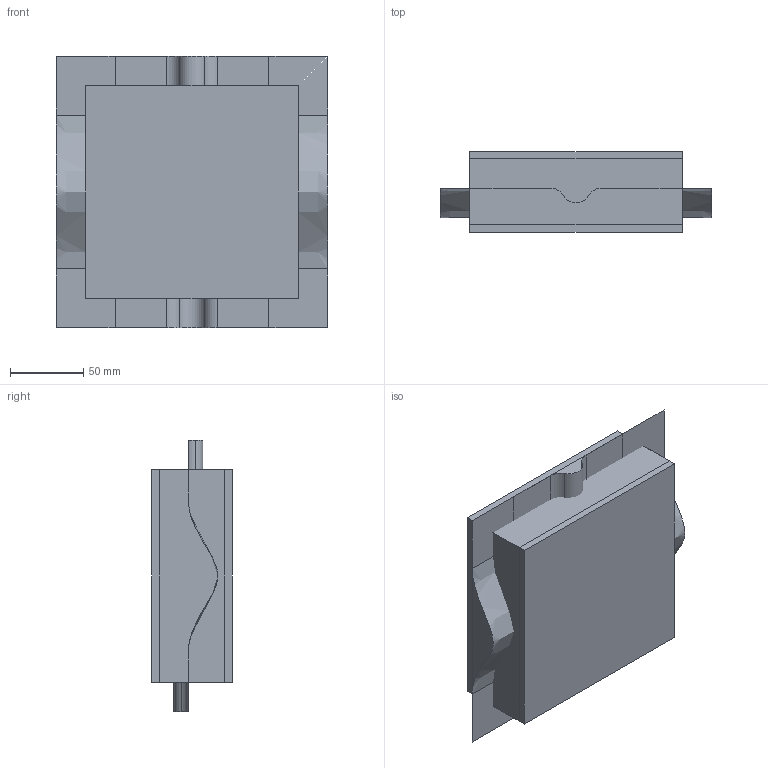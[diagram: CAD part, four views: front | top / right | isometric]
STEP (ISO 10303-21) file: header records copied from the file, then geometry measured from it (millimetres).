
FILE_DESCRIPTION(('CATIA V5 STEP Exchange'),'2;1');
FILE_NAME('C:\_Andres\UNIVERSIDAD\IQS\ASIGNATURAS\DAO\EXF\EXF-16172c\2inicio\Bosch_Dalmau_Ej02_v5.stp','2017-03-05T15:45:16+00:00',('none'),('none'),'CATIA Version 5-6 Release 2014 SP1 HF18','CATIA V5 STEP AP203','none');
FILE_SCHEMA(('CONFIG_CONTROL_DESIGN'));
Length unit declared in the file: millimetre
Products named in the file (1): Bosch_Dalmau_Ej02_v5
Bounding box: 185 x 55 x 185 mm (x, y, z)
Surface area: 217444.5 mm2
Topology: 3 solids, 10 shells, 72 faces, 205 edges, 150 vertices
Faces by surface type: bspline 32, plane 32, cylinder 6, extrusion 2
Entity records: 6920 total; most frequent: CARTESIAN_POINT 5603, ORIENTED_EDGE 288, DIRECTION 151, EDGE_CURVE 132, VERTEX_POINT 84, VECTOR 77, LINE 75, ADVANCED_FACE 72
